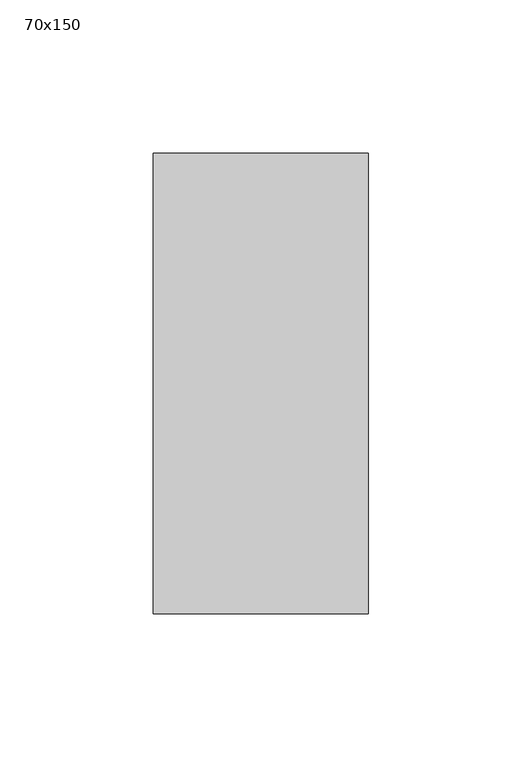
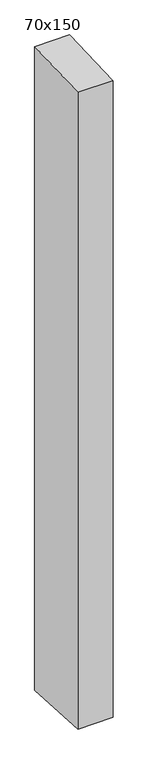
"""IFC4 building model written with IfcOpenShell, lengths in millimetres: member geometry, 長方形のマリオン : 70x150."""

from ifc_helpers import new_model, si_unit, frame, origin, place, context, project, spatial, polyline, outline, extrude, source, transform, mapped, element, save


def member_70x150_583fbbe6(model_context):
    return source(origin(), model_context, "Body", "SweptSolid", [
        extrude(outline(polyline([(-75.0, -3.0352512), (75.0, 3.0352512), (75.0, -1355.4782313), (-75.0, -1346.9359507), (-75.0, -3.0352512)])), frame((-70.0, 0.0, 0.0), z_axis=(1.0, 0.0, 0.0), x_axis=(0.0, 1.0, 0.0)), (0.0, 0.0, 1.0), 70.0),
    ])


if __name__ == "__main__":
    model = new_model("IFC4")
    model_context = context("Model", 3, world=origin())
    ifc_project = project(units=[si_unit("LENGTHUNIT", "METRE", prefix="MILLI")], contexts=[model_context])
    site = spatial("IfcSite", under=ifc_project)
    building = spatial("IfcBuilding", under=site)
    placement = place(None, origin())
    member_70x150_shape = member_70x150_583fbbe6(model_context)
    element("IfcMember", 1, ObjectType="長方形のマリオン : 70x150", at=placement, inside=building, context=model_context, shape_type="MappedRepresentation", body=[
        mapped(member_70x150_shape, transform((0.0, 0.0, 0.0), x_axis=(1.0, 0.0, 0.0), y_axis=(0.0, 1.0, 0.0), z_axis=(0.0, 0.0, 1.0))),
    ])
    save(model, "model.ifc")
